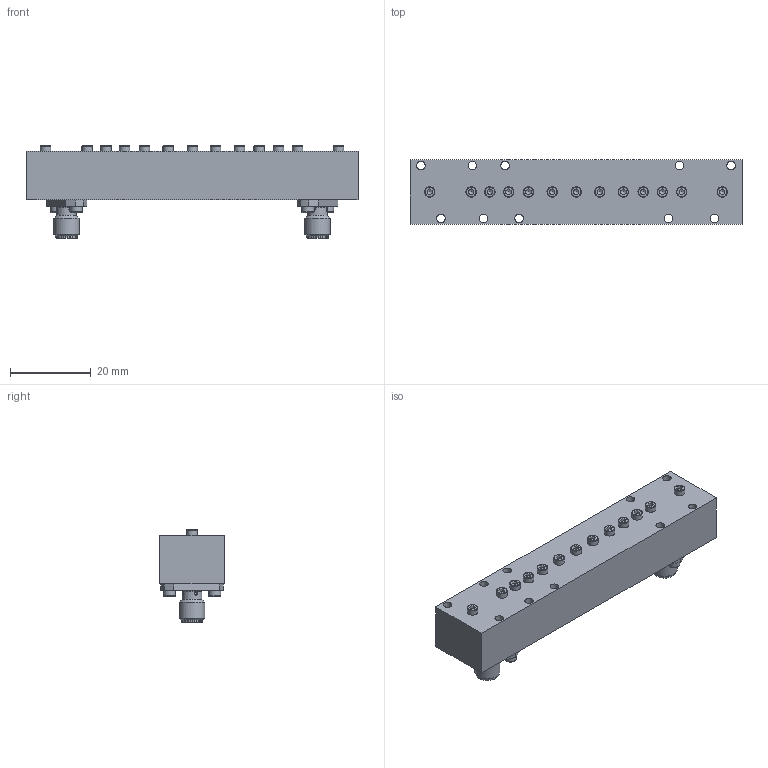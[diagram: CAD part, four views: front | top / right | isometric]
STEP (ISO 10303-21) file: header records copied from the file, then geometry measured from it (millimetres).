
FILE_DESCRIPTION(/* description */ ('Unknown'),/* implementation_level */ '2;1');
FILE_NAME(/* name */ 'DETI_MICROWAVE_BANDPASS_FILTER_001234_STEP',/* time_stamp */ '2021-06-04T14:18:43+02:00',/* author */ ('ALG'),/* organization */ ('DETI'),/* preprocessor_version */ 'ST-DEVELOPER v16.7',/* originating_system */ 'Solid Edge',/* authorisation */ 'Unknown');
FILE_SCHEMA (('AUTOMOTIVE_DESIGN {1 0 10303 214 3 1 1}'));
Length unit declared in the file: millimetre
Products named in the file (1): BPF-CA-7250-7750-CUSTOM-0012342
Bounding box: 82 x 16 x 22.88 mm (x, y, z)
Volume: 16019.7 mm3; surface area: 6663.8 mm2
Topology: 1 solids, 26 shells, 372 faces, 891 edges, 593 vertices
Faces by surface type: plane 192, cone 82, cylinder 73, torus 25
Full cylindrical faces by diameter (mm): 1.221 x4, 1.275 x2, 1.29 x4, 1.6 x4, 2.1 x10, 2.6 x17, 3 x4, 4.06 x4, 4.1 x4, 4.61 x2, 4.9 x2, 5.35 x2, 6.26 x2
Entity records: 15884 total; most frequent: CARTESIAN_POINT 5685, DIRECTION 1514, ORIENTED_EDGE 1308, EDGE_CURVE 654, AXIS2_PLACEMENT_3D 617, FACE_BOUND 606, EDGE_LOOP 572, VERTEX_POINT 532
